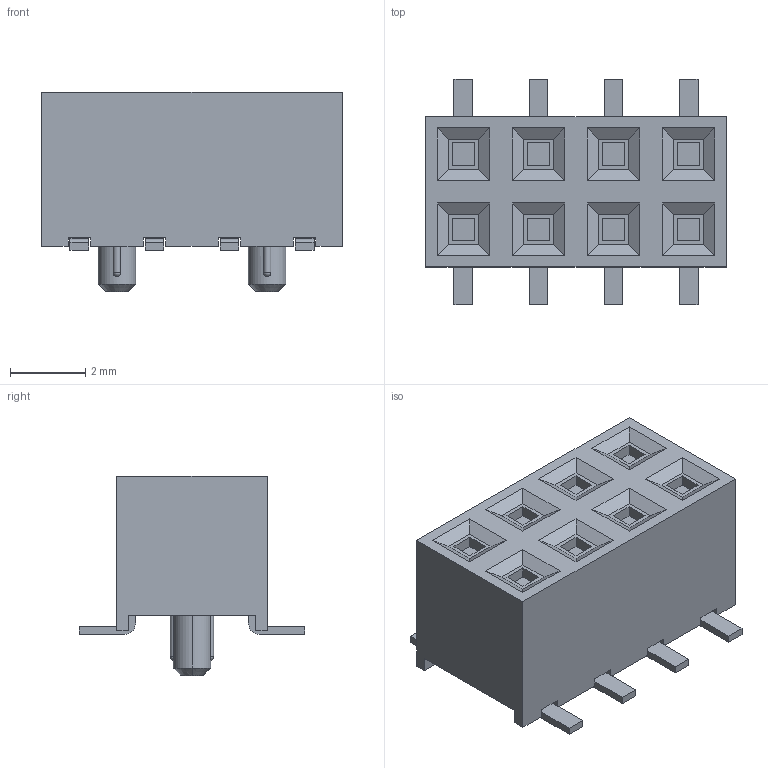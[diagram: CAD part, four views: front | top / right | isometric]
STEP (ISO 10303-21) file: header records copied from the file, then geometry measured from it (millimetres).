
FILE_DESCRIPTION(('CoCreate Modeling STEP Export'),'2;1');
FILE_NAME('A3A-8DA-2SV.stp','2013-10-31T15:41:36',(''),(''),'CoCreate Modeling STEP processor for AP214 (Solid Model)','CoCreate Modeling 17.0 01-Apr-2010 (C) Parametric Technology GmbH','');
FILE_SCHEMA(('AUTOMOTIVE_DESIGN { 1 0 10303 214 1 1 1 1 }'));
Length unit declared in the file: millimetre
Products named in the file (1): A3A-8DA-2SV
Bounding box: 8 x 6 x 5.3 mm (x, y, z)
Volume: 121 mm3; surface area: 200.3 mm2
Topology: 1 solids, 1 shells, 220 faces, 580 edges, 380 vertices
Faces by surface type: plane 188, cylinder 24, cone 4, sphere 4
Entity records: 6811 total; most frequent: CARTESIAN_POINT 1412, ORIENTED_EDGE 1160, DIRECTION 1022, EDGE_CURVE 580, VECTOR 506, LINE 506, VERTEX_POINT 380, AXIS2_PLACEMENT_3D 258
